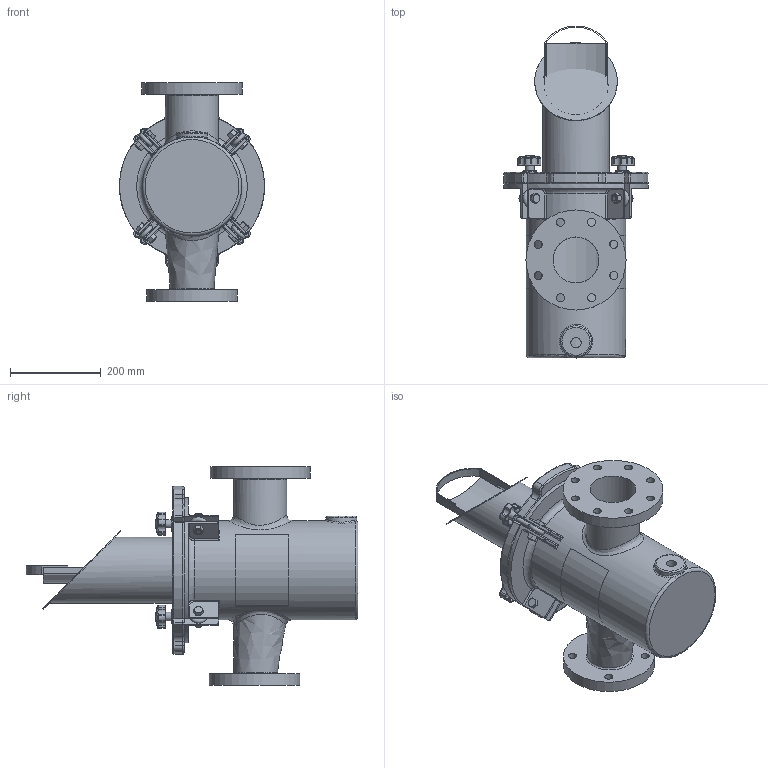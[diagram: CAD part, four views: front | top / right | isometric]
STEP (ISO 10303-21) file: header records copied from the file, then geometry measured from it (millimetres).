
FILE_DESCRIPTION(/* description */ ('100MM X 80MM FIBERGLASS STRAINER BODY'),/* implementation_level */ '2;1');
FILE_NAME(/* name */ 'C:\Users\r.kommineni.ext\Desktop\NB\CAD\Workspace\FG Reducing Strainer\Guardian FG Reducing H&L Strainer (Metric)_CLEARANCE VOLUME\STRAINER H&L 100MM X 80MM.stp',/* time_stamp */ '2017-06-09T13:34:16-04:00',/* author */ ('r.kommineni.ext'),/* organization */ (''),/* preprocessor_version */ 'ST-DEVELOPER v16.1',/* originating_system */ 'Autodesk Inventor 2016',/* authorisation */ '');
FILE_SCHEMA (('CONFIG_CONTROL_DESIGN'));
Length unit declared in the file: inch
Products named in the file (19): NBFGBODY04X03MM; 150NBCVR13R1; 150NBGSK08R1; Perforated Basket 8in; Bride (Ring) 8in; Baffle 8in; Handle 8in; Bottom Strainer 8in; Nut- 1_2  UNC; Bolt-1_2 x 1 1_2  UNC; EyeBolt; Washer; Knob M10; Securing Assembly For FG without Brace; Label for 8.625 inch (Right); Label for 8.625 inch (Left); NBBSK04T316_clearance; NBBSK04T316_clearance_1; STRAINER H&L 100MM X 80MM
Assembly tree (21 placements, depth 3):
  STRAINER H&L 100MM X 80MM
    NBFGBODY04X03MM
    150NBCVR13R1
    150NBGSK08R1
    NBBSK04T316_clearance_1
      Perforated Basket 8in
      Bride (Ring) 8in
      Baffle 8in
      Handle 8in
      Bottom Strainer 8in
      NBBSK04T316_clearance
    Securing Assembly For FG without Brace  x4
      Nut- 1_2  UNC
      Bolt-1_2 x 1 1_2  UNC
      EyeBolt
      Washer
      Knob M10
    Label for 8.625 inch (Right)
    Label for 8.625 inch (Left)
Bounding box: 320.68 x 733.12 x 482.6 mm (x, y, z)
Volume: 7474649.9 mm3; surface area: 1997792.7 mm2
Topology: 30 solids, 34 shells, 948 faces, 2204 edges, 1317 vertices
Faces by surface type: cylinder 350, plane 262, torus 93, cone 92, bspline 83, sphere 68
Full cylindrical faces by diameter (mm): 3.175 x10, 6.35 x2, 8.382 x4, 9.525 x8, 10.592 x4, 12.7 x4, 15.875 x8, 17.78 x12, 19 x8, 19.05 x4, 22.809 x1, 31.75 x4, 68.263 x1, 101.6 x1, 117.475 x1, 142.875 x2, 146.05 x2, 148.59 x1, 200.66 x1, 203.2 x2, 212.725 x1, 219.075 x1, 220.98 x1, 222.25 x1, 257.175 x1, 263.525 x1
Entity records: 22280 total; most frequent: CARTESIAN_POINT 8248, DIRECTION 2922, ORIENTED_EDGE 2584, EDGE_CURVE 1317, AXIS2_PLACEMENT_3D 1220, VERTEX_POINT 844, EDGE_LOOP 751, CIRCLE 598
